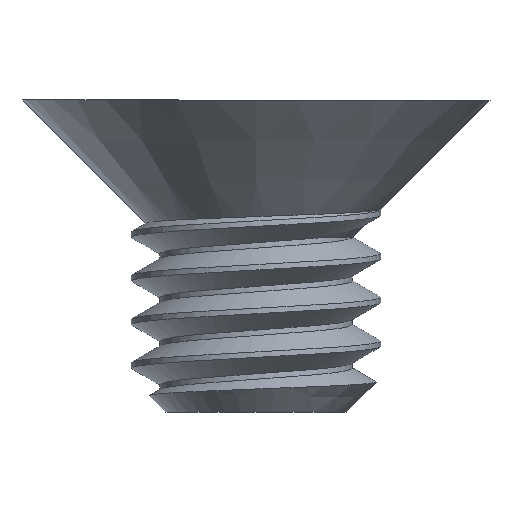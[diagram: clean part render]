
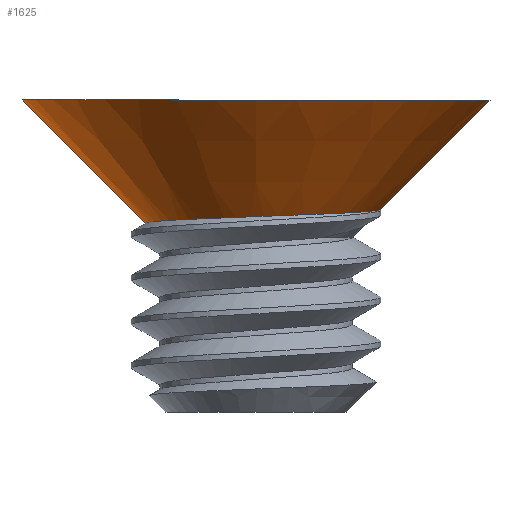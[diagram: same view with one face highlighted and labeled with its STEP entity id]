
A CAD part, left-side view. The second image highlights one B-rep face of the part: STEP entity #1625.
In plain terms, the highlighted conical face has half-angle 45 degrees and reference radius 2 mm.
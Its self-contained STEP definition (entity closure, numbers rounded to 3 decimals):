
#109 = AXIS2_PLACEMENT_3D ( 'NONE', #1380, #1369, #304 ) ;
#151 = CARTESIAN_POINT ( 'NONE',  ( -1.426, 1.159, 0.284 ) ) ;
#175 = VERTEX_POINT ( 'NONE', #2031 ) ;
#267 = CARTESIAN_POINT ( 'NONE',  ( 0., 2., 0.45 ) ) ;
#278 = AXIS2_PLACEMENT_3D ( 'NONE', #780, #960, #1489 ) ;
#304 = DIRECTION ( 'NONE',  ( 0., -1., 0. ) ) ;
#337 = CARTESIAN_POINT ( 'NONE',  ( -1.819, -0.575, 0.354 ) ) ;
#356 = EDGE_LOOP ( 'NONE', ( #1123, #1005, #1834, #2050 ) ) ;
#364 = CARTESIAN_POINT ( 'NONE',  ( -1.15, -1.591, 0.398 ) ) ;
#377 = LINE ( 'NONE', #1503, #1384 ) ;
#391 = CARTESIAN_POINT ( 'NONE',  ( 0., 3.75, 2.2 ) ) ;
#459 = CONICAL_SURFACE ( 'NONE', #278, 2., 0.785 ) ;
#514 = CARTESIAN_POINT ( 'NONE',  ( -1.781, -0.695, 0.358 ) ) ;
#521 = CIRCLE ( 'NONE', #109, 3.75 ) ;
#523 = CARTESIAN_POINT ( 'NONE',  ( -1.496, -1.243, 0.379 ) ) ;
#537 = CARTESIAN_POINT ( 'NONE',  ( -1.505, 1.062, 0.288 ) ) ;
#542 = CARTESIAN_POINT ( 'NONE',  ( -0.123, -1.988, 0.438 ) ) ;
#548 = VERTEX_POINT ( 'NONE', #391 ) ;
#590 = DIRECTION ( 'NONE',  ( 0., -0.707, 0.707 ) ) ;
#662 = DIRECTION ( 'NONE',  ( 0., 0.707, 0.707 ) ) ;
#721 = VECTOR ( 'NONE', #662, 1000. ) ;
#726 = CARTESIAN_POINT ( 'NONE',  ( -0.838, 1.602, 0.254 ) ) ;
#738 = CARTESIAN_POINT ( 'NONE',  ( -1.882, -0.212, 0.339 ) ) ;
#780 = CARTESIAN_POINT ( 'NONE',  ( 0., 0., 0.45 ) ) ;
#881 = CARTESIAN_POINT ( 'NONE',  ( -0.949, 1.545, 0.259 ) ) ;
#960 = DIRECTION ( 'NONE',  ( 0., 0., 1. ) ) ;
#1005 = ORIENTED_EDGE ( 'NONE', *, *, #1378, .T. ) ;
#1074 = CARTESIAN_POINT ( 'NONE',  ( -1.251, 1.333, 0.274 ) ) ;
#1086 = CARTESIAN_POINT ( 'NONE',  ( -1.156, 1.41, 0.269 ) ) ;
#1096 = CARTESIAN_POINT ( 'NONE',  ( -0.245, -1.973, 0.434 ) ) ;
#1123 = ORIENTED_EDGE ( 'NONE', *, *, #1717, .F. ) ;
#1134 = LINE ( 'NONE', #267, #721 ) ;
#1174 = EDGE_CURVE ( 'NONE', #548, #1749, #521, .T. ) ;
#1188 = CARTESIAN_POINT ( 'NONE',  ( 0., -3.75, 2.2 ) ) ;
#1261 = CARTESIAN_POINT ( 'NONE',  ( -1.872, 0.159, 0.325 ) ) ;
#1369 = DIRECTION ( 'NONE',  ( 0., 0., 1. ) ) ;
#1378 = EDGE_CURVE ( 'NONE', #175, #1420, #1869, .T. ) ;
#1380 = CARTESIAN_POINT ( 'NONE',  ( 0., 0., 2.2 ) ) ;
#1384 = VECTOR ( 'NONE', #590, 1000. ) ;
#1407 = CARTESIAN_POINT ( 'NONE',  ( -0.942, -1.733, 0.407 ) ) ;
#1414 = CARTESIAN_POINT ( 'NONE',  ( -1.637, -1.034, 0.371 ) ) ;
#1420 = VERTEX_POINT ( 'NONE', #2117 ) ;
#1431 = CARTESIAN_POINT ( 'NONE',  ( 0., 1.77, 0.22 ) ) ;
#1433 = CARTESIAN_POINT ( 'NONE',  ( -1.884, 0.034, 0.33 ) ) ;
#1489 = DIRECTION ( 'NONE',  ( 0., -1., 0. ) ) ;
#1503 = CARTESIAN_POINT ( 'NONE',  ( 0., -2., 0.45 ) ) ;
#1603 = CARTESIAN_POINT ( 'NONE',  ( -0.495, 1.737, 0.239 ) ) ;
#1612 = CARTESIAN_POINT ( 'NONE',  ( -0.604, -1.88, 0.421 ) ) ;
#1614 = EDGE_CURVE ( 'NONE', #1420, #1749, #377, .T. ) ;
#1625 = ADVANCED_FACE ( 'NONE', ( #1992 ), #459, .T. ) ;
#1717 = EDGE_CURVE ( 'NONE', #175, #548, #1134, .T. ) ;
#1749 = VERTEX_POINT ( 'NONE', #1188 ) ;
#1759 = CARTESIAN_POINT ( 'NONE',  ( -1.826, 0.4, 0.315 ) ) ;
#1764 = CARTESIAN_POINT ( 'NONE',  ( 0., -1.992, 0.442 ) ) ;
#1781 = CARTESIAN_POINT ( 'NONE',  ( -1.641, 0.857, 0.297 ) ) ;
#1834 = ORIENTED_EDGE ( 'NONE', *, *, #1614, .T. ) ;
#1869 = B_SPLINE_CURVE_WITH_KNOTS ( 'NONE', 3,
 ( #1431, #1953, #1603, #726, #881, #1086, #1074, #151, #537, #1781, #2299, #2137, #1759, #1261, #1433, #738, #1967, #337, #514, #1414, #523, #364, #1407, #1612, #2111, #1096, #542, #1764 ),
 .UNSPECIFIED., .F., .F.,
 ( 4, 2, 2, 2, 2, 2, 2, 2, 2, 2, 2, 2, 2, 4 ),
 ( 0.005, 0.006, 0.006, 0.007, 0.007, 0.007, 0.008, 0.008, 0.008, 0.009, 0.01, 0.01, 0.011, 0.011 ),
 .UNSPECIFIED. ) ;
#1953 = CARTESIAN_POINT ( 'NONE',  ( -0.246, 1.779, 0.229 ) ) ;
#1967 = CARTESIAN_POINT ( 'NONE',  ( -1.869, -0.334, 0.344 ) ) ;
#1992 = FACE_OUTER_BOUND ( 'NONE', #356, .T. ) ;
#2031 = CARTESIAN_POINT ( 'NONE',  ( 0., 1.77, 0.22 ) ) ;
#2050 = ORIENTED_EDGE ( 'NONE', *, *, #1174, .F. ) ;
#2111 = CARTESIAN_POINT ( 'NONE',  ( -0.485, -1.919, 0.425 ) ) ;
#2117 = CARTESIAN_POINT ( 'NONE',  ( 0., -1.992, 0.442 ) ) ;
#2137 = CARTESIAN_POINT ( 'NONE',  ( -1.791, 0.518, 0.311 ) ) ;
#2299 = CARTESIAN_POINT ( 'NONE',  ( -1.698, 0.748, 0.301 ) ) ;
